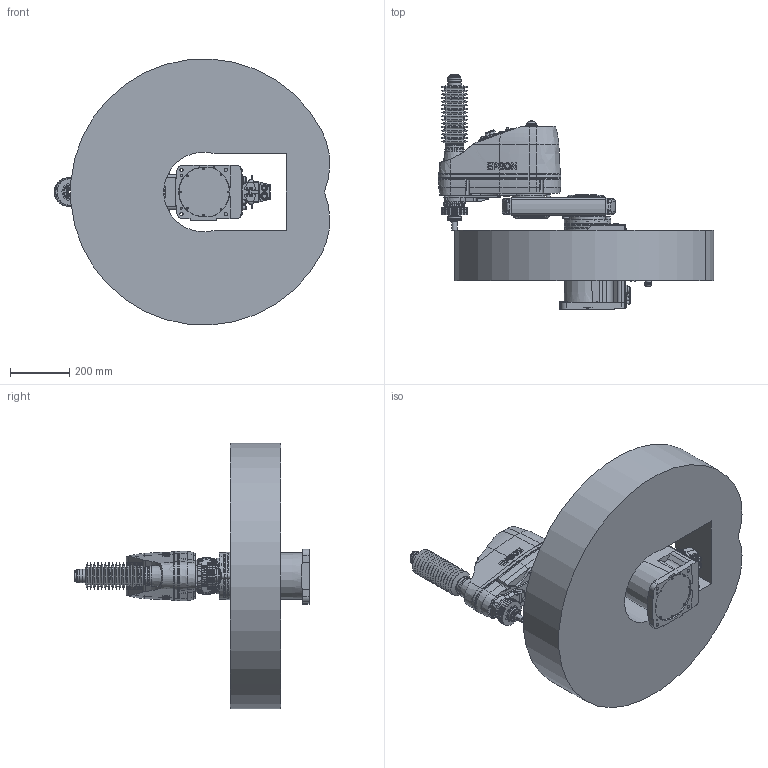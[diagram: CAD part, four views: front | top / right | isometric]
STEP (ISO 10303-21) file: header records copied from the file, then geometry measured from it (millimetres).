
FILE_DESCRIPTION( ( 'STEP AP214' ), '1' );
FILE_NAME( 'C:/Users/9607552/Desktop/GX8-B452C_langle.stp', '2023-07-07T02:00:10', ( '' ), ( '' ), ' ', 'PARTsolutions', ' ' );
FILE_SCHEMA( ( 'AUTOMOTIVE_DESIGN { 1 0 10303 214 1 1 1 1 }' ) );
Length unit declared in the file: millimetre
Products named in the file (11): GX8-B452CA-W; _B452C_BASE; _B452C; _B452C_1; _B452C_2; _B452C_J2; _B452CZA; _1-B-long; _1-B-short; _Angle-B; _GX8-10-B_WS
Assembly tree (12 placements, depth 2):
  GX8-B452CA-W
    _B452C_BASE
    _B452C
    _B452C_1  x2
    _B452C_2  x2
    _B452C_J2
    _B452CZA
    _1-B-long
    _1-B-short
    _Angle-B
    _GX8-10-B_WS
Bounding box: 931.38 x 791.5 x 898.63 mm (x, y, z)
Volume: 112793999.3 mm3; surface area: 3160992.7 mm2
Topology: 12 solids, 16 shells, 3306 faces, 7961 edges, 5149 vertices
Faces by surface type: plane 1604, cylinder 1080, cone 421, torus 159, bspline 37, sphere 5
Full cylindrical faces by diameter (mm): 1 x48, 1.18 x55, 2.261 x4, 2.459 x12, 3 x32, 3.242 x18, 3.3 x4, 3.9 x4, 4.2 x8, 4.5 x12, 4.8 x4, 5.34 x4, 5.5 x17, 6 x5, 6.2 x4, 6.647 x4, 6.8 x2, 7 x48, 8 x5, 8.5 x4, 9 x24, 10 x18, 11 x4, 11.2 x5, 11.5 x1, 12 x5, 12.2 x1, 12.25 x1, 13 x3, 13.2 x12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
Entity records: 117405 total; most frequent: CARTESIAN_POINT 21981, DIRECTION 14637, ORIENTED_EDGE 13152, EDGE_CURVE 6576, AXIS2_PLACEMENT_3D 5718, VERTEX_POINT 4766, EDGE_LOOP 4476, FACE_OUTER_BOUND 3714
